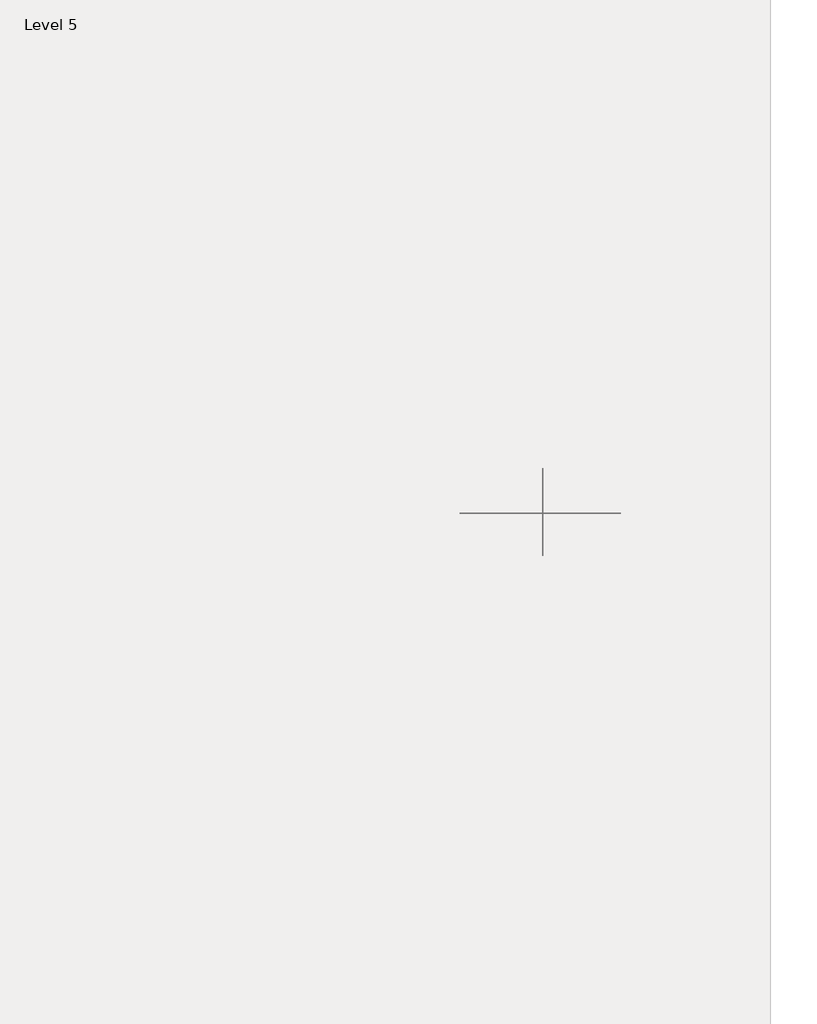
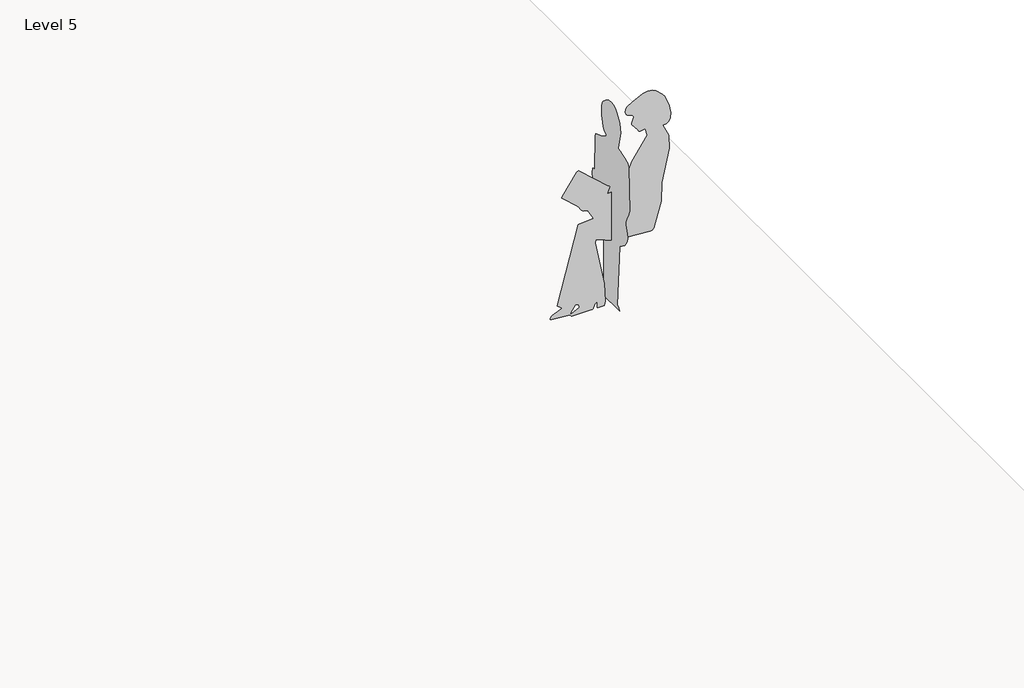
# One storey, part 3 of 3: 1 proxy.
"""IFC4 building model written with IfcOpenShell, lengths in millimetres."""

import ifcopenshell
import ifcopenshell.guid

model = None  # the IFC model being written
_history = None  # IfcOwnerHistory: only IFC2X3 demands one
_inside = {}  # id of a spatial element -> (the spatial element, [elements in it])
_under = {}  # id of a project, library or spatial element -> (it, [spatial elements below it])
_declared = {}  # id of a project -> (the project, [libraries it declares])
_typed = {}  # id of a type object -> (the type object, [elements of that type])
_made_of = {}  # id of a material, layer set ... -> (it, [elements and type objects made of it])


def new_model(schema):
    """Start an empty IFC model of exactly this schema.

    Asked for "IFC4X3", IfcOpenShell would pick the latest addendum, in which some entities
    have other attributes; the version numbers below select the first issue.
    IFC2X3 requires an IfcOwnerHistory on every rooted entity: one is made here for all.
    """
    global model, _history
    if schema == "IFC4X3":
        model = ifcopenshell.file(schema_version=(4, 3, 0, 0))
    else:
        model = ifcopenshell.file(schema=schema)
    _inside.clear()
    _under.clear()
    _declared.clear()
    _typed.clear()
    _made_of.clear()
    _history = None
    if model.schema == "IFC2X3":
        org = make("IfcOrganization", Name="unknown")
        user = make(
            "IfcPersonAndOrganization",
            ThePerson=make("IfcPerson", FamilyName="unknown"),
            TheOrganization=org,
        )
        app = make(
            "IfcApplication",
            ApplicationDeveloper=org,
            Version="unknown",
            ApplicationFullName="unknown",
            ApplicationIdentifier="unknown",
        )
        _history = make(
            "IfcOwnerHistory",
            OwningUser=user,
            OwningApplication=app,
            ChangeAction="ADDED",
            CreationDate=0,
        )
    return model


def make(cls, **values):
    """One entity of the class cls with the attributes given. An attribute that is None is left unset."""
    return model.create_entity(
        cls, **{name: value for name, value in values.items() if value is not None}
    )


def rooted(cls, **values):
    """An entity with a GlobalId (a new one), such as an element, a storey or a relation."""
    return make(cls, GlobalId=ifcopenshell.guid.new(), OwnerHistory=_history, **values)


def si_unit(unit_type, name, prefix=None):
    """IfcSIUnit, for example si_unit("LENGTHUNIT", "METRE", prefix="MILLI")."""
    return make("IfcSIUnit", UnitType=unit_type, Prefix=prefix, Name=name)


def assignment(units):
    """IfcUnitAssignment: the units of a project."""
    return None if units is None else make("IfcUnitAssignment", Units=units)


def point(xyz):
    """IfcCartesianPoint."""
    return None if xyz is None else make("IfcCartesianPoint", Coordinates=xyz)


def direction(xyz):
    """IfcDirection."""
    return None if xyz is None else make("IfcDirection", DirectionRatios=xyz)


def frame(location, z_axis=None, x_axis=None):
    """IfcAxis2Placement3D, a coordinate frame: its origin and axes. An axis left out is left unset."""
    return make(
        "IfcAxis2Placement3D",
        Location=point(location),
        Axis=direction(z_axis),
        RefDirection=direction(x_axis),
    )


def origin():
    """The frame at (0, 0, 0) with its axes left unset."""
    return frame((0.0, 0.0, 0.0))


def place(relative_to, where):
    """IfcLocalPlacement: puts the frame where relative to a parent placement (None: the world)."""
    return make(
        "IfcLocalPlacement", PlacementRelTo=relative_to, RelativePlacement=where
    )


def context(
    kind, dimensions, precision=None, world=None, true_north=None, identifier=None
):
    """IfcGeometricRepresentationContext, for example the 3D "Model" context."""
    return make(
        "IfcGeometricRepresentationContext",
        ContextIdentifier=identifier,
        ContextType=kind,
        CoordinateSpaceDimension=dimensions,
        Precision=precision,
        WorldCoordinateSystem=world,
        TrueNorth=true_north,
    )


def project(units=None, contexts=None):
    """IfcProject with its units and contexts."""
    return rooted(
        "IfcProject",
        Name="project",
        RepresentationContexts=contexts,
        UnitsInContext=assignment(units),
    )


def spatial(cls, under=None, at=None, **own):
    """A site, building, storey or space (cls), placed at a placement, below another one or the project."""
    s = rooted(cls, ObjectPlacement=at, **own)
    if under is not None:
        _under.setdefault(under.id(), (under, []))[1].append(s)
    return s


def point_list(points):
    """IfcCartesianPointList2D or 3D."""
    cls = (
        "IfcCartesianPointList2D" if len(points[0]) == 2 else "IfcCartesianPointList3D"
    )
    return make(cls, CoordList=points)


def triangles(points, corners, closed=None, point_numbers=None):
    """IfcTriangulatedFaceSet: each triangle names its three corners, points numbered from 1."""
    return make(
        "IfcTriangulatedFaceSet",
        Coordinates=point_list(points),
        Closed=closed,
        CoordIndex=corners,
        PnIndex=point_numbers,
    )


def shape(context_of_items, identifier, shape_type, items):
    """IfcShapeRepresentation: the items that make up one representation, for example the "Body"."""
    return make(
        "IfcShapeRepresentation",
        ContextOfItems=context_of_items,
        RepresentationIdentifier=identifier,
        RepresentationType=shape_type,
        Items=items,
    )


def source(mapping_origin, context_of_items, identifier, shape_type, items):
    """IfcRepresentationMap: a shape defined once, which mapped items show again and again."""
    return make(
        "IfcRepresentationMap",
        MappingOrigin=mapping_origin,
        MappedRepresentation=shape(context_of_items, identifier, shape_type, items),
    )


def transform(
    local_origin,
    x_axis=None,
    y_axis=None,
    z_axis=None,
    scale=None,
    scale2=None,
    scale3=None,
    uniform=True,
):
    """IfcCartesianTransformationOperator3D, or its non-uniform kind. x_axis, y_axis, z_axis: its Axis1, 2, 3."""
    if uniform:
        return make(
            "IfcCartesianTransformationOperator3D",
            Axis1=direction(x_axis),
            Axis2=direction(y_axis),
            LocalOrigin=point(local_origin),
            Scale=scale,
            Axis3=direction(z_axis),
        )
    return make(
        "IfcCartesianTransformationOperator3DnonUniform",
        Axis1=direction(x_axis),
        Axis2=direction(y_axis),
        LocalOrigin=point(local_origin),
        Scale=scale,
        Axis3=direction(z_axis),
        Scale2=scale2,
        Scale3=scale3,
    )


def mapped(mapping_source, mapping_target):
    """IfcMappedItem: shows the shape of a source again, moved by a transform."""
    return make(
        "IfcMappedItem", MappingSource=mapping_source, MappingTarget=mapping_target
    )


def made_of(thing, what):
    """Note that an element or type object is made of a material, layer set ...; save() writes the relation."""
    if what is not None:
        _made_of.setdefault(what.id(), (what, []))[1].append(thing)
    return thing


def element(
    cls,
    number,
    at=None,
    inside=None,
    cuts=None,
    type_object=None,
    material=None,
    context=None,
    identifier="Body",
    shape_type=None,
    held_by="IfcProductDefinitionShape",
    body=None,
    shapes=None,
    **own,
):
    """One element of the class cls, such as IfcWall. Its Tag is "e" and its number.

    at: its placement. inside: the storey or other place that contains it. cuts: it is an
    opening in that element (IfcRelVoidsElement). A single representation is given by context,
    identifier, shape_type and body (its items); several are given by shapes. held_by: the class
    of the entity that holds the representations. save() writes the other relations.
    """
    e = rooted(cls, Tag="e%d" % number, ObjectPlacement=at, **own)
    if body is not None:
        shapes = [shape(context, identifier, shape_type, body)]
    if shapes is not None:
        e.Representation = make(held_by, Representations=shapes)
    if inside is not None:
        _inside.setdefault(inside.id(), (inside, []))[1].append(e)
    if cuts is not None:
        rooted(
            "IfcRelVoidsElement", RelatingBuildingElement=cuts, RelatedOpeningElement=e
        )
    if type_object is not None:
        _typed.setdefault(type_object.id(), (type_object, []))[1].append(e)
    return made_of(e, material)


def aggregate(whole, parts):
    """IfcRelAggregates: a whole, such as a stair, and the parts it consists of."""
    return rooted("IfcRelAggregates", RelatingObject=whole, RelatedObjects=parts)


def save(model, path):
    """Write the relations noted so far, then the file.

    IfcRelAggregates (storeys below a building ...), IfcRelContainedInSpatialStructure (elements
    in a storey), IfcRelDefinesByType, IfcRelAssociatesMaterial and IfcRelDeclares: one each for
    every whole, place, type object, material and project.
    """
    for whole, parts in _under.values():
        aggregate(whole, parts)
    for where, things in _inside.values():
        rooted(
            "IfcRelContainedInSpatialStructure",
            RelatedElements=things,
            RelatingStructure=where,
        )
    for kind, things in _typed.values():
        rooted("IfcRelDefinesByType", RelatedObjects=things, RelatingType=kind)
    for what, things in _made_of.values():
        rooted("IfcRelAssociatesMaterial", RelatedObjects=things, RelatingMaterial=what)
    for by, libraries in _declared.values():
        rooted("IfcRelDeclares", RelatingContext=by, RelatedDefinitions=libraries)
    model.write(path)


def rpc_female_d179ddfe(model_context):
    return source(origin(), model_context, "Body", "Tessellation", [
        triangles([(441.0115623, 0.000195, 2.95e-05), (429.3526445, 101.0508632, 2.95e-05), (396.1482396, 193.849741, 2.95e-05), (344.0569788, 275.7380203, 2.95e-05), (275.7379839, 344.0571605, 2.95e-05), (193.8496139, 396.1483123, 2.95e-05), (101.0507451, 429.3527172, 2.95e-05), (0.0001128, 441.0116713, 2.95e-05), (-101.0505544, 429.3527535, 2.95e-05), (-193.8494322, 396.1483486, 2.95e-05), (-275.7377296, 344.0570878, 2.95e-05), (-344.0569061, 275.7380929, 2.95e-05), (-396.1479853, 193.8497047, 2.95e-05), (-429.3523902, 101.050836, 2.95e-05), (-441.0113442, 0.0002072, 2.95e-05), (0.0001438, -441.0112716, 2.95e-05), (5.6288573, -72.8588658, 70.0852479), (5.6288585, -67.5989352, 46.4156806), (5.6288573, -125.4578945, 20.116164), (5.6288573, -130.7177933, 25.3760469), (5.6288568, -108.5117995, 62.754241), (5.6288568, -96.5284376, 75.3451376), (5.6288636, 28.8463088, 4.4e-06), (5.628863, 40.229117, 35.8958695), (5.628863, 42.8589028, 37.582617), (5.6288625, 46.0255291, 39.5148301), (5.628863, 49.4069043, 41.5083494), (5.628863, 52.681005, 43.379338), (5.628863, 55.5256942, 44.9433777), (5.628863, 57.6189757, 46.0169087), (5.628863, 58.6387445, 46.4156806), (5.6288642, 58.6388263, 5.3e-06), (5.6288664, 109.8768961, 6.9e-06), (5.6288659, 117.5638814, 30.074729), (5.6288619, 110.2503017, 165.0034458), (5.6288488, 45.8425734, 492.8872839), (5.6288488, 48.1189788, 514.5472627), (5.6288494, 53.3788639, 517.1771167), (5.6288551, 178.1910311, 465.0429079), (5.6288653, 434.6626039, 445.192448), (5.6288659, 450.5017533, 448.7984053), (5.6288659, 460.0242462, 459.6877842), (5.6288619, 516.0170857, 641.4428238), (5.6288585, 518.8805011, 782.802364), (5.6288539, 571.5700902, 1021.0322994), (5.6288505, 566.2196537, 1122.0662487), (5.6288454, 526.7703175, 1208.8547012), (5.6288471, 549.3823457, 1214.8042654), (5.6288466, 565.9655994, 1225.2771), (5.6288471, 578.7778261, 1246.7330578), (5.628846, 582.3522446, 1283.6603096), (5.6288443, 571.2219646, 1340.5466629), (5.6288403, 539.9200962, 1421.8807972), (5.6288392, 521.1666261, 1445.9131966), (5.6288358, 476.5802487, 1486.813607), (5.6288341, 449.7626269, 1499.3802818), (5.6288341, 419.2722642, 1503.8241966), (5.6288318, 384.6166397, 1497.9940292), (5.6288307, 310.7213682, 1462.4588436), (5.6288295, 273.9932685, 1438.4605991), (5.6288295, 262.185559, 1422.5043056), (5.6288307, 258.6746541, 1403.1431328), (5.6288312, 266.4050325, 1379.8015343), (5.6288312, 272.8454643, 1373.0538357), (5.6288335, 310.0952073, 1357.3786297), (5.6288335, 316.3479143, 1352.4606159), (5.6288335, 319.0040385, 1345.6120514), (5.6288346, 317.1758071, 1332.7887062), (5.6288352, 305.8543688, 1300.9030071), (5.6288352, 306.5085803, 1292.1762142), (5.6288386, 347.7776456, 1237.8580181), (5.6288397, 353.1934851, 1227.2643333), (5.6288397, 357.0101126, 1223.4171844), (5.6288403, 363.9689901, 1222.0999683), (5.6288409, 400.5326377, 1227.2643333), (5.6288426, 416.3123068, 1172.0352917), (5.6288431, 303.2702605, 1016.0021559), (5.6288449, 265.1504035, 911.3597786), (5.6288466, 263.775124, 856.4411104), (5.6288431, 152.5272633, 835.1194468), (5.628842, 132.2774819, 835.4014063), (5.628842, 148.1584529, 880.886566), (5.628842, 148.0571964, 882.7405226), (5.6288414, 137.6855275, 888.0610554), (5.6288278, -66.8523783, 1071.7675747), (5.6288273, -73.5721717, 1077.1683352), (5.6288273, -86.0403332, 1072.7861898), (5.6288278, -188.4956529, 924.5040344), (5.6288278, -191.2067156, 911.6699341), (5.6288358, -75.4888061, 809.1019215), (5.6288375, -53.9765018, 775.0415005), (5.628838, -41.2994186, 764.3927319), (5.6288397, -7.1097666, 756.5028791), (5.6288431, 31.0002676, 687.1163441), (5.6288431, 32.3392324, 682.8642054), (5.628842, 2.8209363, 678.8459913), (5.6288397, -75.4888061, 672.3442806), (5.6288505, -225.3960531, 114.7944466), (5.6288528, -193.9320943, 87.1596054), (5.6288528, -191.2067156, 83.2349994), (5.6288511, -259.585536, 54.305547), (5.6288511, -263.2692319, 51.0626081), (5.6288511, -269.2554763, 42.3128833), (5.6288517, -272.6934205, 33.4609913), (5.6288517, -273.1918821, 30.0901555), (5.6288517, -272.7351876, 28.0059872), (5.6288522, -264.4336594, 24.8814686), (5.6288562, -149.6562358, 17.8736649), (5.6288573, -130.7177933, 12.2262931), (5.6288579, -120.238046, 0.0), (104.0908666, 160.2089347, 3.1649078), (94.3579033, 160.2089347, 19.4060443), (89.3722792, 160.2089347, 24.6666948), (83.6749889, 160.2089347, 28.6502543), (77.3615207, 160.2089347, 30.6359162), (108.9209588, 160.208971, 488.2475235), (167.9289758, 160.208971, 532.4711323), (185.1884238, 160.2089529, 554.3915603), (197.8182488, 160.2089529, 580.1067784), (203.7634891, 160.2089529, 609.7401077), (200.9693101, 160.2089529, 643.4147238), (182.2653464, 160.2089529, 694.762825), (181.0317008, 160.2089529, 706.1069727), (182.5596416, 160.2089529, 717.0533976), (187.6063721, 160.2089529, 730.9447008), (194.3765257, 160.2089529, 745.9817917), (210.3236083, 160.2089529, 778.2543858), (229.8987579, 160.2089529, 827.5114082), (217.4196868, 160.2089892, 1149.376791), (206.2291816, 160.2089892, 1174.665073), (197.3626625, 160.2089892, 1180.1407562), (179.9116746, 160.2089892, 1186.5602772), (157.4188615, 160.2090074, 1193.4647249), (133.4268031, 160.2090074, 1200.3942438), (111.4781428, 160.2090074, 1206.8904316), (95.1154334, 160.2090074, 1212.4936506), (87.8813364, 160.2090074, 1216.7443359), (122.0707194, 160.2090074, 1350.8719048), (106.8578307, 160.2090255, 1414.3610527), (72.8125705, 160.2090255, 1471.759584), (51.5733646, 160.2090255, 1493.1550804), (29.0406942, 160.2090255, 1507.0042351), (6.3528093, 160.2090255, 1511.2990311), (-28.6189517, 160.2090255, 1503.9375618), (-63.4776388, 160.2090255, 1485.8244232), (-92.9896819, 160.2090255, 1457.7803501), (-104.1052189, 160.2090255, 1440.290284), (-113.0716229, 160.2090255, 1412.8615803), (-115.1812325, 160.2090074, 1340.4901257), (-96.9761937, 160.2090074, 1269.5770123), (-80.5492803, 160.2090074, 1243.9710171), (-59.3960202, 160.2090074, 1229.8941147), (-59.3960202, 160.2090074, 1219.3742626), (-106.3336258, 160.2090074, 1187.1321173), (-188.2636903, 160.2090255, 1156.2552956), (-192.5278195, 160.2090255, 1139.830426), (-199.1336482, 160.2090074, 881.9723282), (-218.9549129, 160.2090074, 877.9899405), (-221.2948136, 160.2090074, 876.8948765), (-223.2305058, 160.2090074, 874.3328962), (-229.8985581, 160.2089892, 846.8826822), (-219.8231193, 160.2089892, 732.8331757), (-218.615544, 160.2089892, 731.6850626), (-200.1001226, 160.2089892, 727.4659161), (-198.7834878, 160.2089892, 727.5732496), (-189.8889181, 160.2089892, 742.3224947), (-177.7438745, 160.2089892, 756.5027338), (-174.0054945, 160.2089892, 750.6861557), (-170.8934751, 160.208971, 743.8742895), (-168.1785245, 160.208971, 736.4751045), (-165.6313508, 160.208971, 728.8964973), (-163.0227891, 160.208971, 721.5463646), (-160.1235111, 160.208971, 714.8327482), (-156.7042431, 160.208971, 709.1635448), (-165.9934653, 160.208971, 587.3215633), (-161.082228, 160.208971, 562.7220474), (-151.4443625, 160.208971, 540.8466385), (-144.6676322, 160.208971, 533.0879914), (-106.327031, 160.208971, 513.8625661), (-97.6973615, 160.208971, 507.5200027), (-90.955422, 160.208971, 498.7673756), (-89.4974987, 160.2089347, 49.829067), (-106.3299469, 160.2089347, 7.46e-05), (105.2757234, 160.2089347, 7.46e-05)], [[15, 16, 1], [14, 15, 1], [14, 1, 2], [13, 14, 2], [13, 2, 3], [13, 3, 4], [12, 13, 4], [11, 12, 4], [11, 4, 5], [11, 5, 6], [11, 6, 7], [11, 7, 8], [11, 8, 9], [11, 9, 10], [23, 17, 18], [110, 23, 18], [110, 18, 19], [109, 110, 19], [17, 23, 24], [31, 32, 33], [31, 33, 34], [109, 19, 20], [108, 109, 20], [88, 89, 90], [82, 83, 84], [85, 86, 87], [105, 106, 107], [104, 105, 107], [103, 104, 107], [102, 103, 107], [101, 102, 107], [100, 101, 107], [100, 107, 108], [100, 108, 20], [100, 20, 21], [100, 21, 22], [87, 88, 90], [85, 87, 90], [84, 85, 90], [84, 90, 91], [84, 91, 92], [84, 92, 93], [82, 84, 93], [81, 82, 93], [81, 93, 94], [80, 81, 94], [80, 94, 95], [99, 100, 22], [17, 24, 25], [17, 25, 26], [31, 34, 35], [30, 31, 35], [17, 26, 27], [17, 27, 28], [17, 28, 29], [29, 30, 35], [17, 29, 35], [22, 17, 35], [99, 22, 35], [98, 99, 35], [97, 98, 35], [97, 35, 36], [97, 36, 37], [96, 97, 37], [96, 37, 38], [95, 96, 38], [80, 95, 38], [80, 38, 39], [79, 80, 39], [79, 39, 40], [79, 40, 41], [79, 41, 42], [79, 42, 43], [79, 43, 44], [78, 79, 44], [77, 78, 44], [77, 44, 45], [77, 45, 46], [76, 77, 46], [76, 46, 47], [75, 76, 47], [72, 73, 74], [71, 72, 74], [61, 62, 63], [60, 61, 63], [60, 63, 64], [59, 60, 64], [59, 64, 65], [59, 65, 66], [58, 59, 66], [57, 58, 66], [56, 57, 66], [55, 56, 66], [54, 55, 66], [54, 66, 67], [53, 54, 67], [52, 53, 67], [52, 67, 68], [51, 52, 68], [50, 51, 68], [49, 50, 68], [48, 49, 68], [47, 48, 68], [75, 47, 68], [74, 75, 68], [71, 74, 68], [70, 71, 68], [69, 70, 68], [183, 184, 111], [183, 111, 112], [183, 112, 113], [183, 113, 114], [183, 114, 115], [182, 183, 115], [181, 182, 115], [181, 115, 116], [154, 155, 156], [164, 165, 166], [180, 181, 116], [163, 164, 166], [162, 163, 166], [162, 166, 167], [161, 162, 167], [160, 161, 167], [159, 160, 167], [158, 159, 167], [157, 158, 167], [180, 116, 117], [180, 117, 118], [180, 118, 119], [180, 119, 120], [180, 120, 121], [180, 121, 122], [179, 180, 122], [179, 122, 123], [178, 179, 123], [177, 178, 123], [176, 177, 123], [175, 176, 123], [174, 175, 123], [174, 123, 124], [174, 124, 125], [173, 174, 125], [172, 173, 125], [171, 172, 125], [170, 171, 125], [169, 170, 125], [169, 125, 126], [168, 169, 126], [168, 126, 127], [167, 168, 127], [157, 167, 127], [157, 127, 128], [156, 157, 128], [154, 156, 128], [153, 154, 128], [153, 128, 129], [153, 129, 130], [153, 130, 131], [153, 131, 132], [153, 132, 133], [153, 133, 134], [153, 134, 135], [153, 135, 136], [153, 136, 137], [152, 153, 137], [151, 152, 137], [150, 151, 137], [149, 150, 137], [149, 137, 138], [149, 138, 139], [148, 149, 139], [147, 148, 139], [146, 147, 139], [146, 139, 140], [145, 146, 140], [145, 140, 141], [144, 145, 141], [144, 141, 142], [144, 142, 143]], closed=False),
    ])


model = new_model("IFC4")

# Units and contexts
model_context = context("Model", 3, world=origin())
ifc_project = project(units=[si_unit("LENGTHUNIT", "METRE", prefix="MILLI")], contexts=[model_context])

# Site, building, storey
site = spatial("IfcSite", under=ifc_project)
building = spatial("IfcBuilding", under=site)
storey = spatial("IfcBuildingStorey", under=building, Name="Level 5", Elevation=14630.4)

# Proxy
placement = place(None, origin())
rpc_female_shape = rpc_female_d179ddfe(model_context)
element("IfcBuildingElementProxy", 1, Name="RPC Female : Cynthia", ObjectType="RPC Female : Cynthia", at=placement, inside=storey, context=model_context, shape_type="MappedRepresentation", body=[
    mapped(rpc_female_shape, transform((16668.2038471, -2327.360924, 14630.4), x_axis=(0.0, -1.0, 0.0), y_axis=(1.0, 0.0, 0.0), z_axis=(0.0, 0.0, 1.0))),
])

save(model, "model.ifc")
